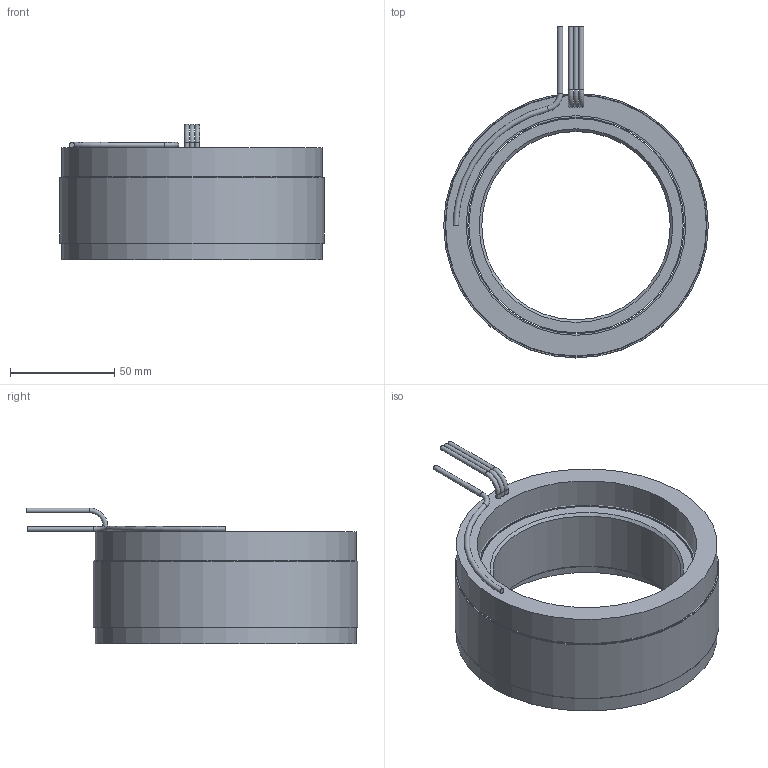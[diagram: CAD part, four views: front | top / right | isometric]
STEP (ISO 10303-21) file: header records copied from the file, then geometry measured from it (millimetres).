
FILE_DESCRIPTION (( 'STEP AP214' ), '1' );
FILE_NAME ('6100396-04.STEP', '2020-12-15T18:09:42', ( '' ), ( '' ), 'SwSTEP 2.0', 'SolidWorks 2016', '' );
FILE_SCHEMA (( 'AUTOMOTIVE_DESIGN' ));
Length unit declared in the file: inch
Products named in the file (10): 4500562-XX_4500562-04; 6100396-04; 4250384-XX_4250384-04; 4450193-XX_4450193-04; 4600569-00; 4400105-00; 4150182-XX_4150182-04; COMP4500562-XX(COIL)_COMP4500562-04(COIL)
Assembly tree (10 placements, depth 4):
  6100396-04
    4250384-XX_4250384-04
      4150182-XX_4150182-04
    4500562-XX_4500562-04
      4450193-XX_4450193-04
        4450193-XX_4450193-04
        4400105-00
        4400105-00
        4600569-00  x2
      COMP4500562-XX(COIL)_COMP4500562-04(COIL)
Bounding box: 127 x 159.26 x 65.15 mm (x, y, z)
Volume: 389010.3 mm3; surface area: 135065 mm2
Topology: 8 solids, 8 shells, 47 faces, 74 edges, 46 vertices
Faces by surface type: cylinder 21, plane 19, torus 5, cone 2
Full cylindrical faces by diameter (mm): 2.286 x6, 2.54 x1, 90.424 x1, 102.87 x1, 103.886 x5, 105.41 x1, 125.222 x1, 125.73 x2, 127 x3
Entity records: 1305 total; most frequent: DIRECTION 202, CARTESIAN_POINT 143, AXIS2_PLACEMENT_3D 101, ORIENTED_EDGE 84, EDGE_LOOP 84, FACE_OUTER_BOUND 67, ADVANCED_FACE 43, EDGE_CURVE 42
